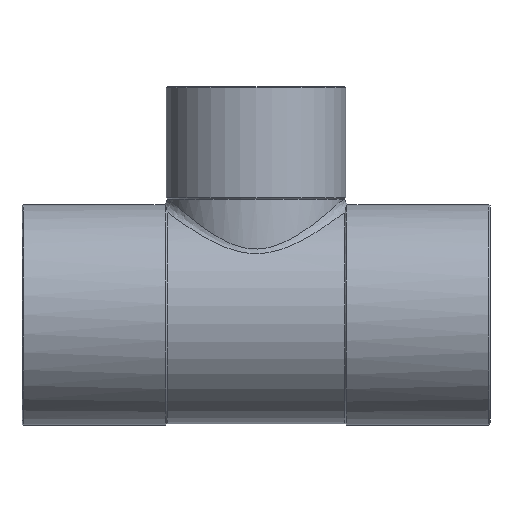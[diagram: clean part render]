
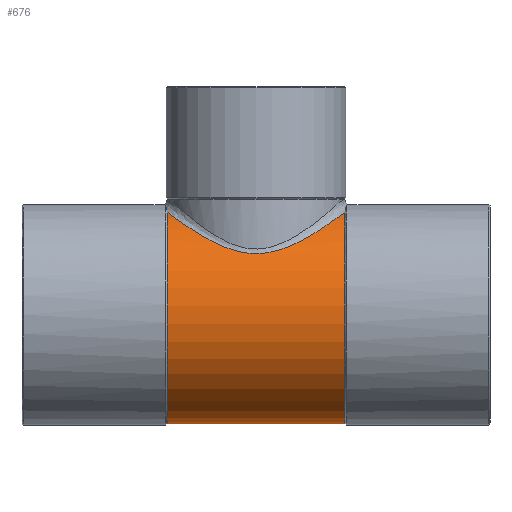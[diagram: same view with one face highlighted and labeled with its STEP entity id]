
A CAD part, top view. The second image highlights one B-rep face of the part: STEP entity #676.
In plain terms, the highlighted cylindrical face has radius 18.6 mm (diameter 37.2 mm), a partial arc.
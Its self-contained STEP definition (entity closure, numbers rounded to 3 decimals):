
#117=CARTESIAN_POINT('',(15.187,-18.6,0.));
#118=VERTEX_POINT('',#117);
#134=CARTESIAN_POINT('',(15.187,17.565,6.118));
#135=VERTEX_POINT('',#134);
#145=CARTESIAN_POINT('',(15.187,0.0,0.0));
#146=DIRECTION('',(1.0,0.0,0.0));
#147=DIRECTION('',(0.0,1.0,0.0));
#148=AXIS2_PLACEMENT_3D('',#145,#146,#147);
#149=CIRCLE('',#148,18.6);
#150=EDGE_CURVE('',#135,#118,#149,.T.);
#629=CARTESIAN_POINT('',(7.593,0.0,0.0));
#630=DIRECTION('',(1.0,0.0,0.0));
#631=DIRECTION('',(0.0,1.0,0.0));
#632=AXIS2_PLACEMENT_3D('',#629,#630,#631);
#633=CYLINDRICAL_SURFACE('',#632,18.6);
#634=CARTESIAN_POINT('',(-15.187,-18.6,0.));
#635=VERTEX_POINT('',#634);
#636=CARTESIAN_POINT('',(15.187,-18.6,0.));
#637=DIRECTION('',(-1.0,0.0,0.0));
#638=VECTOR('',#637,30.373);
#639=LINE('',#636,#638);
#640=EDGE_CURVE('',#118,#635,#639,.T.);
#641=ORIENTED_EDGE('',*,*,#640,.F.);
#642=ORIENTED_EDGE('',*,*,#150,.F.);
#643=CARTESIAN_POINT('',(-15.187,17.565,6.118));
#644=VERTEX_POINT('',#643);
#645=CARTESIAN_POINT('',(-15.187,17.565,6.118));
#646=CARTESIAN_POINT('',(-14.809,17.283,6.928));
#647=CARTESIAN_POINT('',(-14.365,16.955,7.69));
#648=CARTESIAN_POINT('',(-13.868,16.595,8.4));
#649=CARTESIAN_POINT('',(-12.285,15.451,10.661));
#650=CARTESIAN_POINT('',(-10.168,13.956,12.425));
#651=CARTESIAN_POINT('',(-7.663,12.643,13.642));
#652=CARTESIAN_POINT('',(-5.711,11.62,14.591));
#653=CARTESIAN_POINT('',(-3.461,10.692,15.222));
#654=CARTESIAN_POINT('',(-1.024,10.487,15.362));
#655=CARTESIAN_POINT('',(1.412,10.281,15.502));
#656=CARTESIAN_POINT('',(3.874,10.912,15.109));
#657=CARTESIAN_POINT('',(5.972,11.828,14.354));
#658=CARTESIAN_POINT('',(9.543,13.388,13.069));
#659=CARTESIAN_POINT('',(12.428,15.538,10.79));
#660=CARTESIAN_POINT('',(14.363,16.956,7.646));
#661=CARTESIAN_POINT('',(14.664,17.176,7.157));
#662=CARTESIAN_POINT('',(14.94,17.381,6.647));
#663=CARTESIAN_POINT('',(15.187,17.565,6.118));
#664=B_SPLINE_CURVE_WITH_KNOTS('',3,(#645,#646,#647,#648,#649,#650,#651,#652,#653,#654,#655,#656,#657,#658,#659,#660,#661,#662,#663),.UNSPECIFIED.,.F.,.U.,(4,3,3,3,3,3,4),(3.068,3.331,4.17,4.823,5.477,6.589,6.762),.UNSPECIFIED.);
#665=EDGE_CURVE('',#644,#135,#664,.T.);
#666=ORIENTED_EDGE('',*,*,#665,.F.);
#667=CARTESIAN_POINT('',(-15.187,0.0,0.0));
#668=DIRECTION('',(1.0,0.0,0.0));
#669=DIRECTION('',(0.0,1.0,0.0));
#670=AXIS2_PLACEMENT_3D('',#667,#668,#669);
#671=CIRCLE('',#670,18.6);
#672=EDGE_CURVE('',#644,#635,#671,.T.);
#673=ORIENTED_EDGE('',*,*,#672,.T.);
#674=EDGE_LOOP('',(#641,#642,#666,#673));
#675=FACE_OUTER_BOUND('',#674,.T.);
#676=ADVANCED_FACE('',(#675),#633,.T.);
